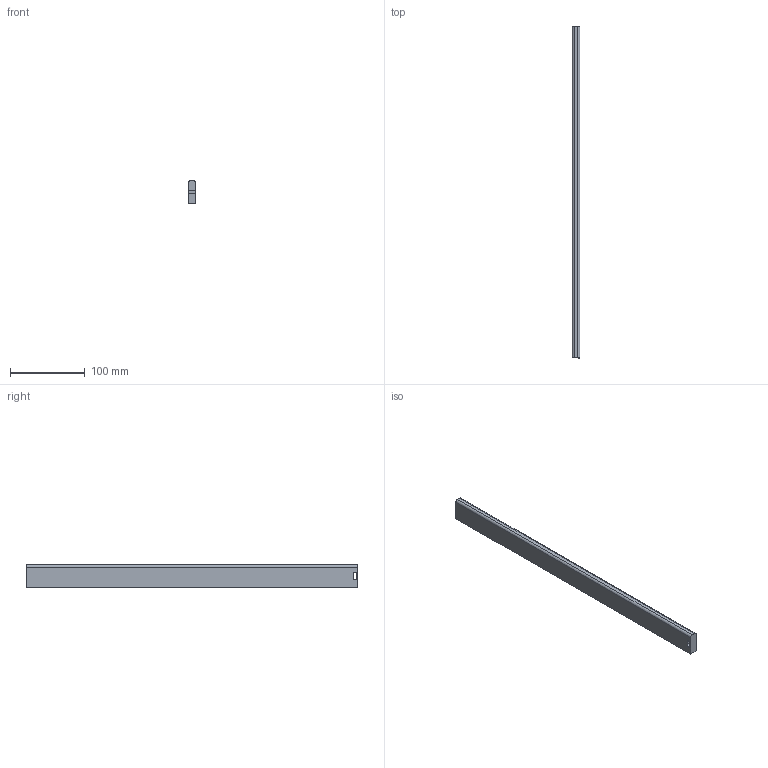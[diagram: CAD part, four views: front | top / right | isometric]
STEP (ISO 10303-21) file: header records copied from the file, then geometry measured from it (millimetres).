
FILE_DESCRIPTION (( 'STEP AP214' ), '1' );
FILE_NAME ('_Seitenreling_S610000200_RL445.step', '2010-09-06T14:51:19', ( 'grass' ), ( '' ), 'SwSTEP 2.0', 'SolidWorks 2010', '' );
FILE_SCHEMA (( 'AUTOMOTIVE_DESIGN' ));
Length unit declared in the file: millimetre
Products named in the file (1): _Seitenreling_S610000200_RL445
Bounding box: 10.5 x 445 x 30 mm (x, y, z)
Volume: 137987.4 mm3; surface area: 35702 mm2
Topology: 1 solids, 1 shells, 12 faces, 30 edges, 20 vertices
Faces by surface type: plane 8, cylinder 4
Entity records: 400 total; most frequent: DIRECTION 64, CARTESIAN_POINT 63, ORIENTED_EDGE 60, EDGE_CURVE 30, VECTOR 22, LINE 22, AXIS2_PLACEMENT_3D 21, VERTEX_POINT 20
